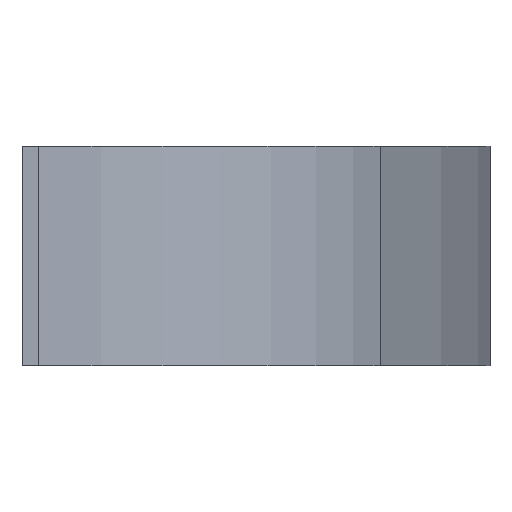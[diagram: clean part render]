
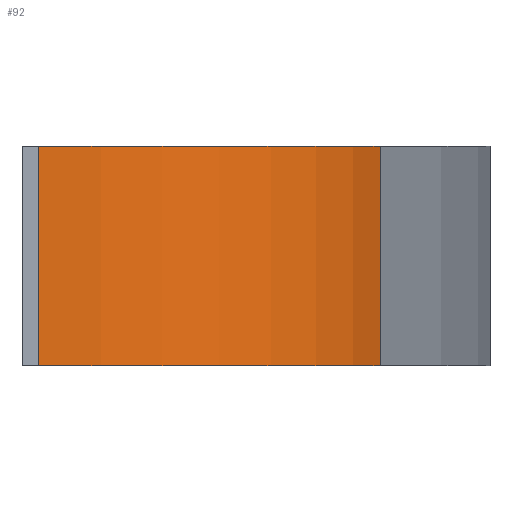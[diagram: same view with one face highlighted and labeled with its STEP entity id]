
A CAD part, left-side view. The second image highlights one B-rep face of the part: STEP entity #92.
In plain terms, the highlighted cylindrical face has radius 25 mm (diameter 50 mm), a partial arc.
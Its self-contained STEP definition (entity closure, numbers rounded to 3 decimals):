
#92 = ADVANCED_FACE( '', ( #132 ), #133, .T. );
#132 = FACE_OUTER_BOUND( '', #174, .T. );
#133 = CYLINDRICAL_SURFACE( '', #175, 25. );
#174 = EDGE_LOOP( '', ( #299, #300, #301, #302 ) );
#175 = AXIS2_PLACEMENT_3D( '', #303, #304, #305 );
#299 = ORIENTED_EDGE( '', *, *, #382, .T. );
#300 = ORIENTED_EDGE( '', *, *, #351, .F. );
#301 = ORIENTED_EDGE( '', *, *, #383, .F. );
#302 = ORIENTED_EDGE( '', *, *, #380, .T. );
#303 = CARTESIAN_POINT( '', ( 16., -1.119, 7.5 ) );
#304 = DIRECTION( '', ( 0., 0., 1. ) );
#305 = DIRECTION( '', ( -1., 0., 0. ) );
#351 = EDGE_CURVE( '', #409, #404, #411, .T. );
#380 = EDGE_CURVE( '', #459, #457, #460, .T. );
#382 = EDGE_CURVE( '', #457, #404, #462, .T. );
#383 = EDGE_CURVE( '', #459, #409, #463, .T. );
#404 = VERTEX_POINT( '', #488 );
#409 = VERTEX_POINT( '', #494 );
#411 = LINE( '', #496, #497 );
#457 = VERTEX_POINT( '', #562 );
#459 = VERTEX_POINT( '', #565 );
#460 = LINE( '', #566, #567 );
#462 = CIRCLE( '', #570, 25. );
#463 = CIRCLE( '', #571, 25. );
#488 = CARTESIAN_POINT( '', ( 7.111, -24.485, -7.5 ) );
#494 = CARTESIAN_POINT( '', ( 7.111, -24.485, 7.5 ) );
#496 = CARTESIAN_POINT( '', ( 7.111, -24.485, 7.5 ) );
#497 = VECTOR( '', #607, 1. );
#562 = CARTESIAN_POINT( '', ( -9., -1.119, -7.5 ) );
#565 = CARTESIAN_POINT( '', ( -9., -1.119, 7.5 ) );
#566 = CARTESIAN_POINT( '', ( -9., -1.119, 7.5 ) );
#567 = VECTOR( '', #652, 1. );
#570 = AXIS2_PLACEMENT_3D( '', #654, #655, #656 );
#571 = AXIS2_PLACEMENT_3D( '', #657, #658, #659 );
#607 = DIRECTION( '', ( 0., 0., -1. ) );
#652 = DIRECTION( '', ( 0., 0., -1. ) );
#654 = CARTESIAN_POINT( '', ( 16., -1.119, -7.5 ) );
#655 = DIRECTION( '', ( 0., 0., 1. ) );
#656 = DIRECTION( '', ( -1., 0., 0. ) );
#657 = CARTESIAN_POINT( '', ( 16., -1.119, 7.5 ) );
#658 = DIRECTION( '', ( 0., 0., 1. ) );
#659 = DIRECTION( '', ( -1., 0., 0. ) );
